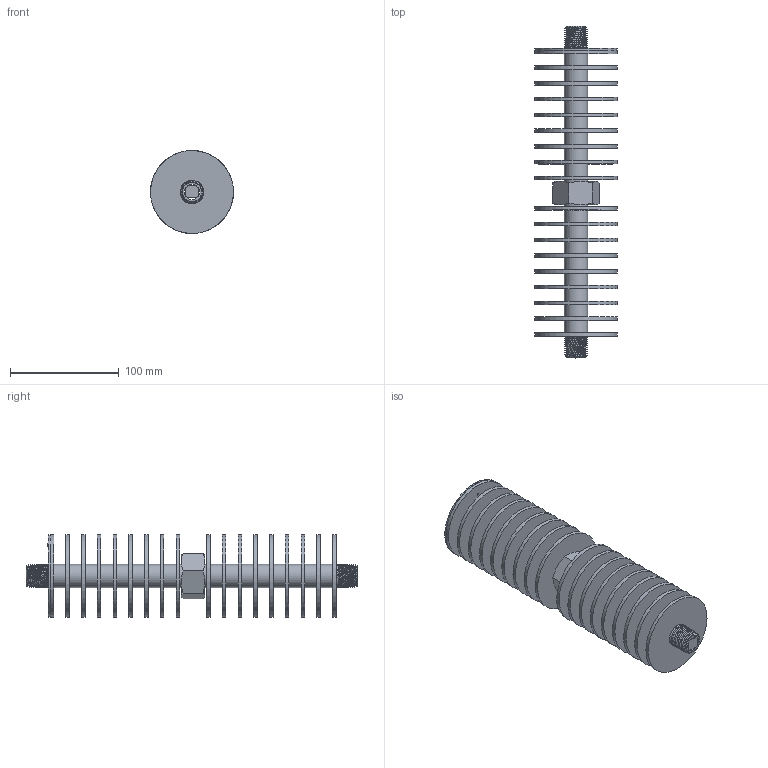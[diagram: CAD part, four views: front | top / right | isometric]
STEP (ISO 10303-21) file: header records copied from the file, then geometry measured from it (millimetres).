
FILE_DESCRIPTION (( 'STEP AP214' ), '1' );
FILE_NAME ('5DEM06.STEP', '2022-12-01T20:25:10', ( '' ), ( '' ), 'SwSTEP 2.0', 'SolidWorks 2022', '' );
FILE_SCHEMA (( 'AUTOMOTIVE_DESIGN' ));
Length unit declared in the file: inch
Products named in the file (1): 5DEM06
Bounding box: 76.2 x 304.8 x 76.2 mm (x, y, z)
Surface area: 235788.3 mm2 (no closed solid volume)
Topology: 0 solids, 31 shells, 161 faces, 710 edges, 575 vertices
Faces by surface type: plane 104, cylinder 25, bspline 23, cone 6, sphere 2, torus 1
Full cylindrical faces by diameter (mm): 3.048 x2, 13.868 x1, 21.336 x1, 21.387 x1, 30.937 x1, 76.2 x19
Entity records: 19819 total; most frequent: CARTESIAN_POINT 12576, DIRECTION 863, ORIENTED_EDGE 852, EDGE_CURVE 675, VERTEX_POINT 568, LINE 385, VECTOR 385, EDGE_LOOP 255
